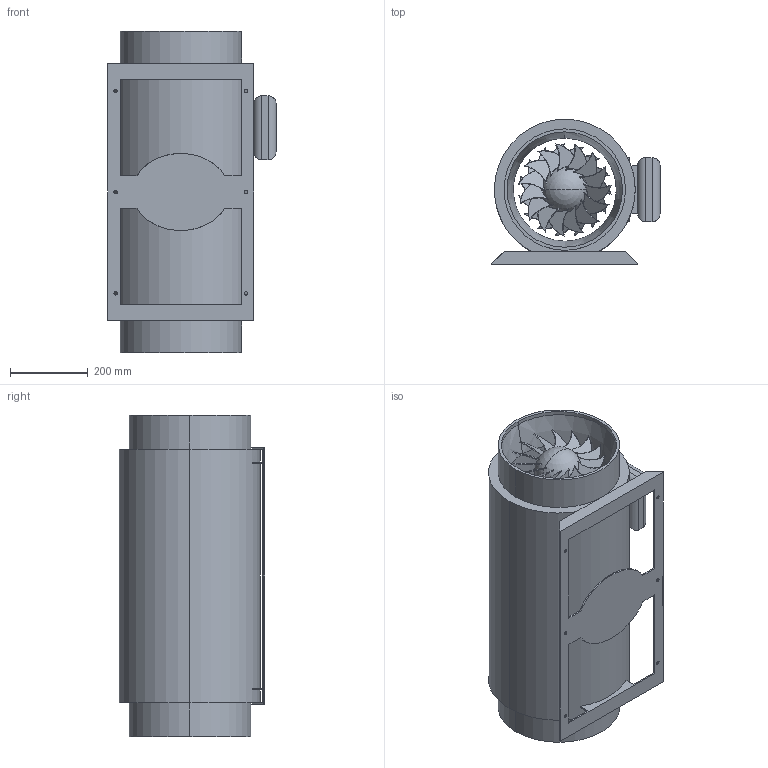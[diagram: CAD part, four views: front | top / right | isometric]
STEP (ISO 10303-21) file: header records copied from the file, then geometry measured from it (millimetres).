
FILE_DESCRIPTION(('STEP AP214'),'1');
FILE_NAME('fan_5211995800.stp','2017-07-14T11:58:26',('TraceParts'),('TraceParts S.A.'),'Spatial InterOp 3D',' ',' ');
FILE_SCHEMA(('automotive_design'));
Length unit declared in the file: millimetre
Products named in the file (1): fan_5211995800
Bounding box: 432 x 373 x 825 mm (x, y, z)
Volume: 11078048.6 mm3; surface area: 2579219.3 mm2
Topology: 1 solids, 1 shells, 237 faces, 667 edges, 432 vertices
Faces by surface type: plane 115, cylinder 104, sphere 12, cone 4, bspline 2
Entity records: 11709 total; most frequent: CARTESIAN_POINT 3471, DIRECTION 1463, ORIENTED_EDGE 1326, EDGE_CURVE 663, AXIS2_PLACEMENT_3D 632, VERTEX_POINT 432, CIRCLE 318, EDGE_LOOP 267
